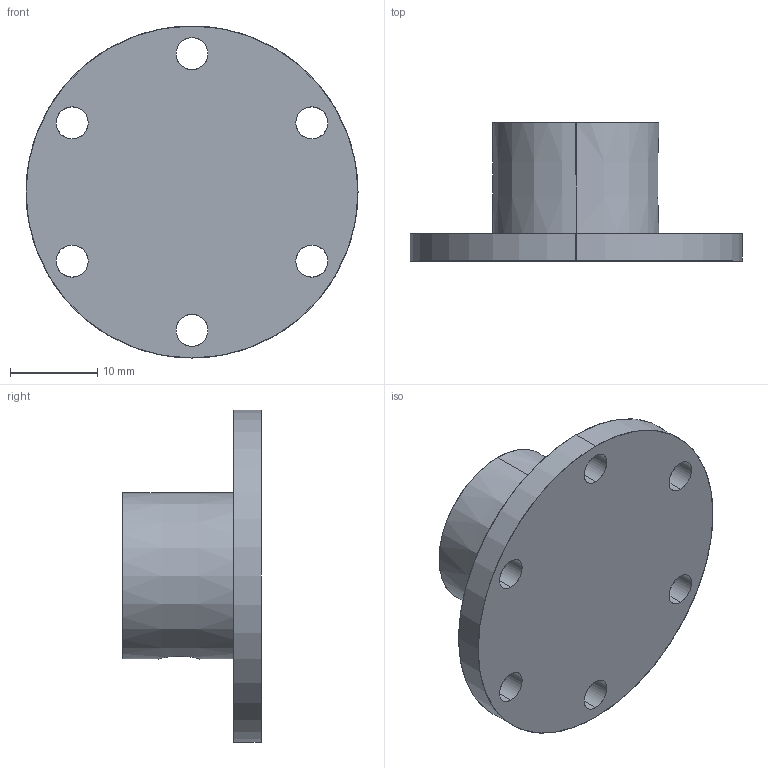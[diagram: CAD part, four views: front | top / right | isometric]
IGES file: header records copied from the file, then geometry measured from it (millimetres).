
Start section: SolidWorks IGES file using analytic representation for surfaces
Global section: file name: C:\Users\Bud\Documents\GitHub\telemetry\Hardware\Masthead hardware\IGES\wind speed mount.IGS; native system: SolidWorks 2011; preprocessor: SolidWorks 2011; author: Bud; date: 131225.211915; units: inch
Bounding box: 38.1 x 15.88 x 38.1 mm (x, y, z)
Surface area: 4032.4 mm2 (no closed solid volume)
Topology: 0 solids, 0 shells, 24 faces, 848 edges, 848 vertices
Faces by surface type: revolution 20, bspline 4
